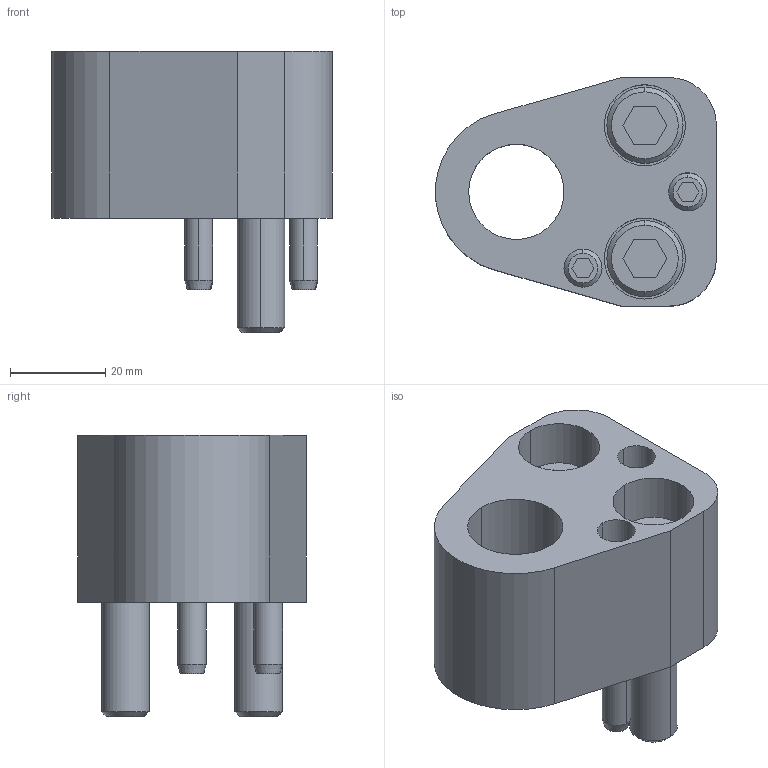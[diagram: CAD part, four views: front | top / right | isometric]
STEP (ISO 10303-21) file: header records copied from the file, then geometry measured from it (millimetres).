
FILE_DESCRIPTION(/* description */ (''),/* implementation_level */ '2;1');
FILE_NAME(/* name */ '3d_hapar20_04003_r00.stp',/* time_stamp */ '2011-01-10T14:14:57+09:00',/* author */ ('MISUMI'),/* organization */ (''),/* preprocessor_version */ 'ST-DEVELOPER v11',/* originating_system */ 'UGS - NX 5.0',/* authorisation */ '');
FILE_SCHEMA (('CONFIG_CONTROL_DESIGN'));
Length unit declared in the file: millimetre
Products named in the file (1): 3d_hapar20_04003_r00
Bounding box: 58.94 x 48 x 59 mm (x, y, z)
Volume: 65239.7 mm3; surface area: 23290.8 mm2
Topology: 7 solids, 7 shells, 135 faces, 294 edges, 188 vertices
Faces by surface type: plane 60, cylinder 49, cone 26
Entity records: 3836 total; most frequent: DIRECTION 684, CARTESIAN_POINT 672, ORIENTED_EDGE 588, EDGE_CURVE 294, AXIS2_PLACEMENT_3D 260, VERTEX_POINT 188, LINE 164, VECTOR 164
